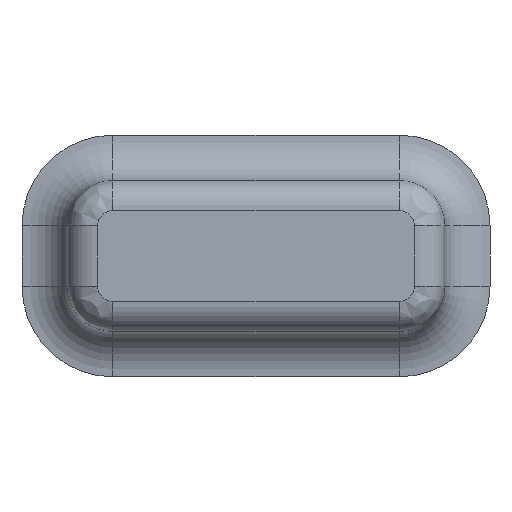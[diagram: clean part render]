
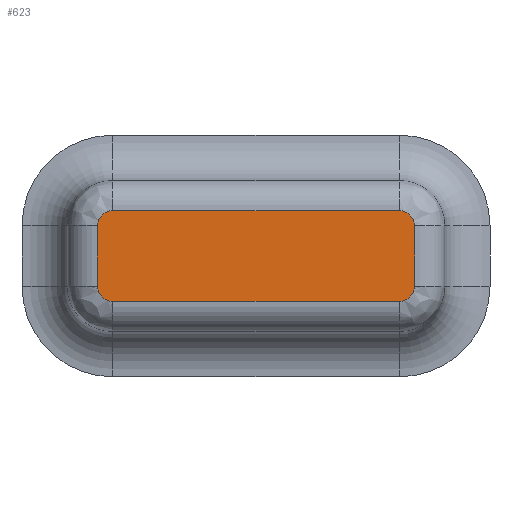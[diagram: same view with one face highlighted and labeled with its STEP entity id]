
A CAD part, front view. The second image highlights one B-rep face of the part: STEP entity #623.
In plain terms, the highlighted planar face has unit normal (0, -1, 0).
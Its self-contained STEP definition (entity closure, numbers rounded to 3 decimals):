
#26=PLANE('',#700);
#33=LINE('',#1019,#65);
#35=LINE('',#1039,#67);
#37=LINE('',#1059,#69);
#39=LINE('',#1076,#71);
#65=VECTOR('',#789,10.);
#67=VECTOR('',#801,10.);
#69=VECTOR('',#813,10.);
#71=VECTOR('',#823,10.);
#124=FACE_OUTER_BOUND('',#166,.T.);
#166=EDGE_LOOP('',(#424,#425,#426,#427,#428,#429,#430,#431));
#203=CIRCLE('',#683,0.5);
#207=CIRCLE('',#688,0.5);
#211=CIRCLE('',#693,0.5);
#215=CIRCLE('',#698,0.5);
#256=VERTEX_POINT('',#1006);
#259=VERTEX_POINT('',#1011);
#261=VERTEX_POINT('',#1017);
#263=VERTEX_POINT('',#1031);
#265=VERTEX_POINT('',#1037);
#267=VERTEX_POINT('',#1051);
#269=VERTEX_POINT('',#1057);
#271=VERTEX_POINT('',#1071);
#307=EDGE_CURVE('',#259,#256,#203,.T.);
#310=EDGE_CURVE('',#261,#259,#33,.T.);
#313=EDGE_CURVE('',#263,#261,#207,.T.);
#316=EDGE_CURVE('',#265,#263,#35,.T.);
#319=EDGE_CURVE('',#267,#265,#211,.T.);
#322=EDGE_CURVE('',#269,#267,#37,.T.);
#325=EDGE_CURVE('',#271,#269,#215,.T.);
#327=EDGE_CURVE('',#256,#271,#39,.T.);
#424=ORIENTED_EDGE('',*,*,#307,.F.);
#425=ORIENTED_EDGE('',*,*,#310,.F.);
#426=ORIENTED_EDGE('',*,*,#313,.F.);
#427=ORIENTED_EDGE('',*,*,#316,.F.);
#428=ORIENTED_EDGE('',*,*,#319,.F.);
#429=ORIENTED_EDGE('',*,*,#322,.F.);
#430=ORIENTED_EDGE('',*,*,#325,.F.);
#431=ORIENTED_EDGE('',*,*,#327,.F.);
#623=ADVANCED_FACE('',(#124),#26,.F.);
#683=AXIS2_PLACEMENT_3D('',#1013,#782,#783);
#688=AXIS2_PLACEMENT_3D('',#1033,#794,#795);
#693=AXIS2_PLACEMENT_3D('',#1053,#806,#807);
#698=AXIS2_PLACEMENT_3D('',#1073,#818,#819);
#700=AXIS2_PLACEMENT_3D('',#1077,#824,#825);
#782=DIRECTION('center_axis',(0.,1.,0.));
#783=DIRECTION('ref_axis',(-0.707,0.,0.707));
#789=DIRECTION('',(0.,0.,1.));
#794=DIRECTION('center_axis',(0.,1.,0.));
#795=DIRECTION('ref_axis',(-0.707,0.,-0.707));
#801=DIRECTION('',(-1.,0.,0.));
#806=DIRECTION('center_axis',(0.,1.,0.));
#807=DIRECTION('ref_axis',(0.707,0.,-0.707));
#813=DIRECTION('',(0.,0.,-1.));
#818=DIRECTION('center_axis',(0.,1.,0.));
#819=DIRECTION('ref_axis',(0.707,0.,0.707));
#823=DIRECTION('',(1.,0.,0.));
#824=DIRECTION('center_axis',(0.,1.,0.));
#825=DIRECTION('ref_axis',(0.,0.,1.));
#1006=CARTESIAN_POINT('',(-4.75,-2.5,1.5));
#1011=CARTESIAN_POINT('',(-5.25,-2.5,1.));
#1013=CARTESIAN_POINT('Origin',(-4.75,-2.5,1.));
#1017=CARTESIAN_POINT('',(-5.25,-2.5,-1.));
#1019=CARTESIAN_POINT('',(-5.25,-2.5,0.5));
#1031=CARTESIAN_POINT('',(-4.75,-2.5,-1.5));
#1033=CARTESIAN_POINT('Origin',(-4.75,-2.5,-1.));
#1037=CARTESIAN_POINT('',(4.75,-2.5,-1.5));
#1039=CARTESIAN_POINT('',(-2.375,-2.5,-1.5));
#1051=CARTESIAN_POINT('',(5.25,-2.5,-1.));
#1053=CARTESIAN_POINT('Origin',(4.75,-2.5,-1.));
#1057=CARTESIAN_POINT('',(5.25,-2.5,1.));
#1059=CARTESIAN_POINT('',(5.25,-2.5,-0.5));
#1071=CARTESIAN_POINT('',(4.75,-2.5,1.5));
#1073=CARTESIAN_POINT('Origin',(4.75,-2.5,1.));
#1076=CARTESIAN_POINT('',(2.375,-2.5,1.5));
#1077=CARTESIAN_POINT('Origin',(0.,-2.5,0.));
